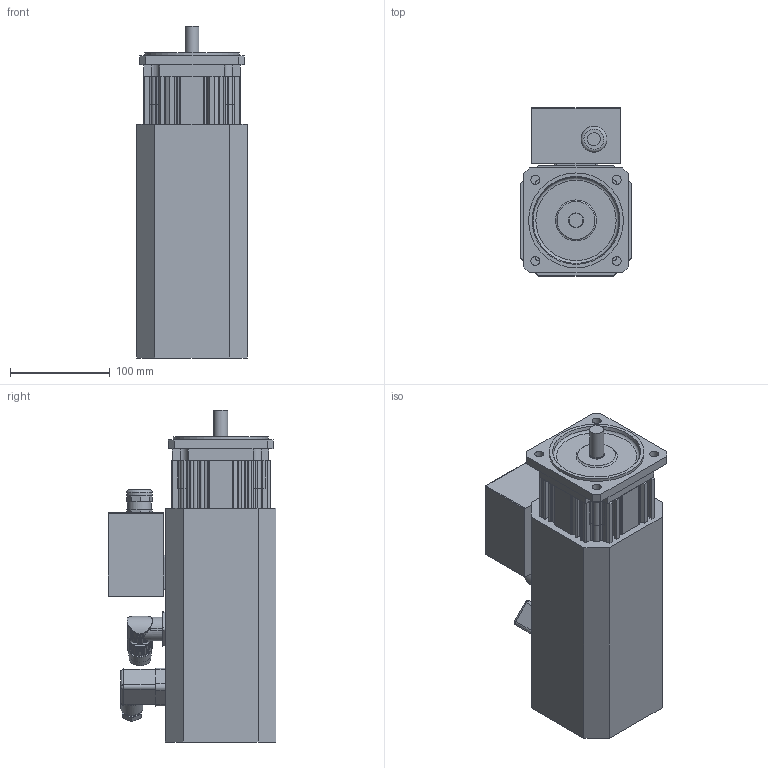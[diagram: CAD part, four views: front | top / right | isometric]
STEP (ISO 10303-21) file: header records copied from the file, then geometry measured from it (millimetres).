
FILE_DESCRIPTION(/* description */ (''),/* implementation_level */ '2;1');
FILE_NAME(/* name */ 'KSA446_FS_Ix',/* time_stamp */ '2009-02-26T14:21:02+01:00',/* author */ (''),/* organization */ (''),/* preprocessor_version */ 'ST-DEVELOPER v8',/* originating_system */ 'UNIGRAPHICS SOLUTIONS - UNIGRAPHICS 18.0',/* authorisation */ '');
FILE_SCHEMA (('AUTOMOTIVE_DESIGN { 1 2 10303 214 0 1 1 1 }'));
Length unit declared in the file: millimetre
Products named in the file (8): 0280391350_0; 014146_0; 014145_0; Winkelflanschdose_0; Lagersch4AS_0; 089105X_0; Klemmenkasten_0; KSA444_FS_Ix_0
Assembly tree (7 placements, depth 3):
  KSA444_FS_Ix_0
    089105X_0
    Lagersch4AS_0
    Winkelflanschdose_0
    Klemmenkasten_0
      0280391350_0
    014145_0
    014146_0
Bounding box: 110.7 x 168.2 x 332.5 mm (x, y, z)
Volume: 3730245.6 mm3; surface area: 332782.7 mm2
Topology: 8 solids, 8 shells, 705 faces, 1944 edges, 1275 vertices
Faces by surface type: cylinder 402, plane 279, cone 8, sphere 8, torus 4, bspline 4
Full cylindrical faces by diameter (mm): 3.2 x1, 3.5 x4, 4.5 x1, 5 x2, 6.5 x4, 9 x4, 13 x2, 14 x1, 15 x1, 16 x1, 17 x1, 18 x1, 20 x2, 21 x1, 21.5 x1, 22.5 x1, 23 x2, 24 x1, 26 x1, 89.6 x2, 91 x1, 95 x1
Entity records: 22938 total; most frequent: CARTESIAN_POINT 4603, DIRECTION 3854, ORIENTED_EDGE 3760, EDGE_CURVE 1880, AXIS2_PLACEMENT_3D 1421, VERTEX_POINT 1263, LINE 1012, VECTOR 1012
